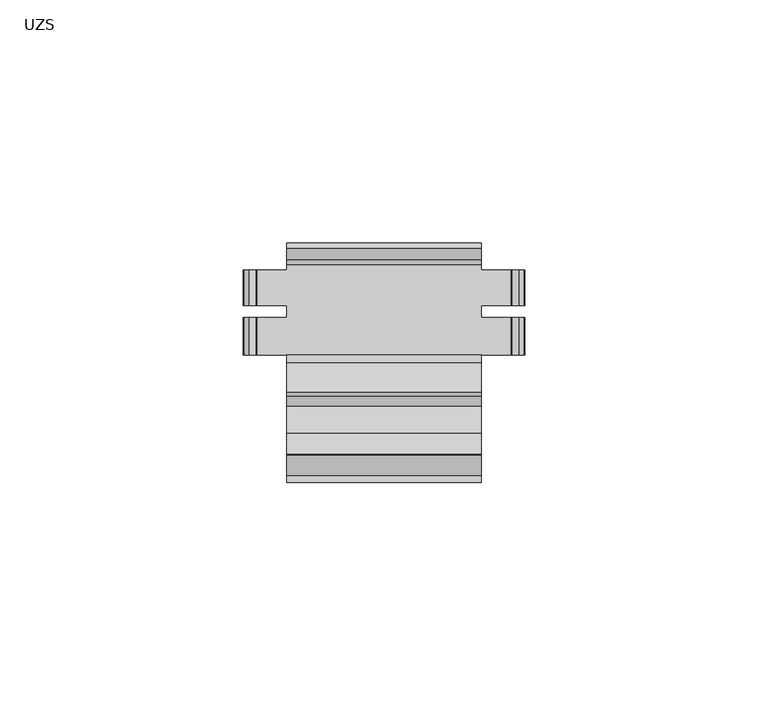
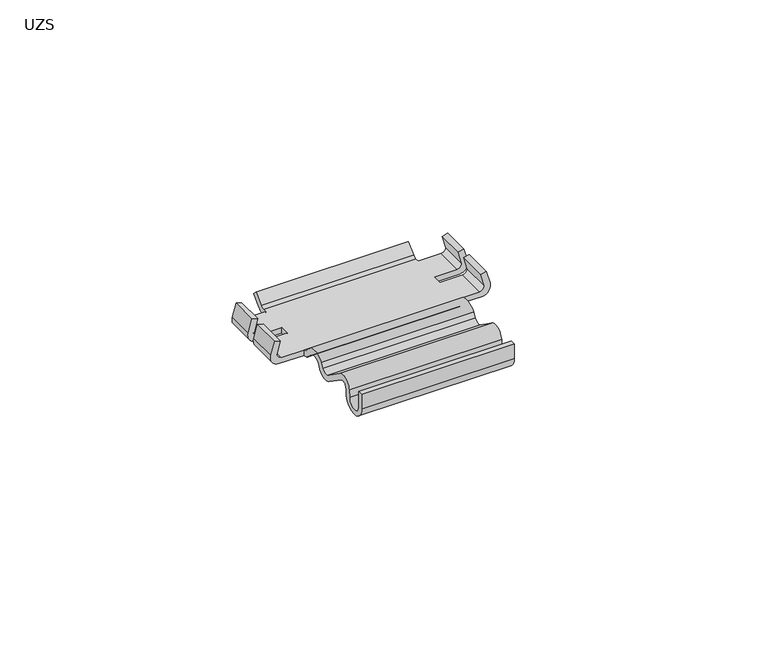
"""IFC4 building model written with IfcOpenShell, lengths in millimetres: cable carrier fitting geometry, BAKS_SUB_Mesh connector bottom : UZS."""

from ifc_helpers import new_model, si_unit, frame, origin, place, context, project, spatial, polyline, circle_curve, source, transform, mapped, element, save
from ifc_brep_helpers import plane_surface, cylinder_surface, revolved_surface, advanced_brep


def uzs_ee93b948(model_context):
    return source(origin(), model_context, "Body", "AdvancedBrep", [
        advanced_brep(
        [(20.0, -26.1903688, -0.5), (20.0, -18.9903688, -0.5), (20.0, -18.9903688, 0.7084026), (20.0, -16.6986716, 1.7770386), (20.0, -11.3752799, -1.9504404), (20.0, -6.8125457, -0.5554726), (20.0, -3.0397387, 0.455448), (20.0, -1.5, -1.0842907), (20.0, 0.0514483, -1.5), (20.0, 0.0, 0.0), (20.0, -1.5771864, 1.1043578), (20.0, -7.7007133, 1.1043578), (20.0, -8.4739929, 0.0), (20.0, -10.5114403, -0.7415702), (20.0, -16.1190086, 3.1848914), (20.0, -20.3947418, 1.1910843), (20.0, -20.5659478, -0.7658087), (20.0, -24.7838373, -0.7658087), (20.0, -24.7838373, 3.5), (20.0, -26.1903688, 3.5), (20.0, 18.5, 0.0), (20.0, 17.5, 0.0), (20.0, 17.5, -1.5), (20.0, 18.5, -1.5), (20.0, 20.6591422, -0.5834985), (20.0, 22.9856414, 1.7430007), (20.0, 21.9249812, 2.8036608), (20.0, 19.5606602, 0.4393398), (20.0, 10.25, 0.0), (20.0, 7.75, 0.0), (20.0, 7.75, -1.5), (20.0, 10.25, -1.5), (-20.0, -26.1903688, -0.5), (-20.0, -26.1903688, 3.5), (-20.0, -24.7838373, 3.5), (-20.0, -24.7838373, -0.7658087), (-20.0, -20.5659478, -0.7658087), (-20.0, -20.3947418, 1.1910843), (-20.0, -16.1190086, 3.1848914), (-20.0, -10.5114403, -0.7415702), (-20.0, -8.4739929, 0.0), (-20.0, -7.7007133, 1.1043578), (-20.0, -1.5771864, 1.1043578), (-20.0, 0.0, 0.0), (-20.0, 0.0, -1.512879), (-20.0, -1.5, -1.0842907), (-20.0, -3.0397387, 0.455448), (-20.0, -6.8125457, -0.5554726), (-20.0, -11.3752799, -1.9504404), (-20.0, -16.6986716, 1.7770386), (-20.0, -18.9903688, 0.7084026), (-20.0, -18.9903688, -0.5), (-20.0, 18.5, -1.5), (-20.0, 17.5, -1.5), (-20.0, 17.5, 0.0), (-20.0, 18.5, 0.0), (-20.0, 19.5606602, 0.4393398), (-20.0, 21.9249812, 2.8036608), (-20.0, 22.9856414, 1.7430007), (-20.0, 20.6591422, -0.5834985), (-20.0, 7.75, 0.0), (-20.0, 10.25, 0.0), (-20.0, 10.25, -1.5), (-20.0, 7.75, -1.5), (25.9820894, 0.0, 0.0), (25.9820894, 7.75, 0.0), (25.9820894, 10.25, 0.0), (25.9820894, 17.5, 0.0), (-25.9820894, 17.5, 0.0), (-25.9820894, 10.25, 0.0), (-25.9820894, 7.75, 0.0), (-25.9820894, 0.0, 0.0), (26.7264706, 17.5, -1.5), (26.7264706, 10.25, -1.5), (26.7264706, 7.75, -1.5), (26.7264706, 0.0, -1.5), (-26.7264706, 0.0, -1.5), (-26.7264706, 7.75, -1.5), (-26.7264706, 10.25, -1.5), (-26.7264706, 17.5, -1.5), (27.2287691, 17.5, 1.2466797), (26.3155563, 17.5, 4.654836), (27.8072475, 17.5, 5.0545335), (28.7783388, 17.5, 1.4303715), (28.7783388, 10.25, 1.4303715), (27.8072475, 10.25, 5.0545335), (26.3155563, 10.25, 4.654836), (27.2287691, 10.25, 1.2466797), (27.2287691, 7.75, 1.2466797), (26.3155563, 7.75, 4.654836), (27.8072475, 7.75, 5.0545335), (28.7783388, 7.75, 1.4303715), (28.7783388, 0.0, 1.4303715), (27.8072475, 0.0, 5.0545335), (26.3155563, 0.0, 4.654836), (27.2287691, 0.0, 1.2466797), (-28.7783388, 7.75, 1.4303715), (-27.8072475, 7.75, 5.0545335), (-26.3155563, 7.75, 4.654836), (-27.2287691, 7.75, 1.2466797), (-27.2287691, 0.0, 1.2466797), (-26.3155563, 0.0, 4.654836), (-27.8072475, 0.0, 5.0545335), (-28.7783388, 0.0, 1.4303715), (-28.7783388, 17.5, 1.4303715), (-27.8072475, 17.5, 5.0545335), (-26.3155563, 17.5, 4.654836), (-27.2287691, 17.5, 1.2466797), (-27.2287691, 10.25, 1.2466797), (-26.3155563, 10.25, 4.654836), (-27.8072475, 10.25, 5.0545335), (-28.7783388, 10.25, 1.4303715)],
        [
            (0, 1, circle_curve(frame((20.0, -22.5903688, -0.5), z_axis=(1.0, 0.0, 0.0), x_axis=(0.0, 1.0, 0.0)), 3.6)),
            (1, 2),
            (2, 3, circle_curve(frame((20.0, -17.5953636, 0.7084026), z_axis=(-1.0, 0.0, 0.0), x_axis=(0.0, 1.0, 0.0)), 1.3950052)),
            (3, 4),
            (4, 5, circle_curve(frame((20.0, -9.6388469, 0.5294428), z_axis=(1.0, 0.0, 0.0), x_axis=(0.0, 1.0, 0.0)), 3.0273784)),
            (5, 6, circle_curve(frame((20.0, -4.5589038, -1.4205647), z_axis=(-1.0, 0.0, 0.0), x_axis=(0.0, 1.0, 0.0)), 2.4139773)),
            (6, 7),
            (7, 8, circle_curve(frame((20.0, -0.364261, 0.0514483), z_axis=(1.0, 0.0, 0.0), x_axis=(0.0, 1.0, 0.0)), 1.6061775)),
            (8, 9),
            (9, 10, circle_curve(frame((20.0, 0.0, 1.6784067), z_axis=(-1.0, 0.0, 0.0), x_axis=(0.0, 1.0, 0.0)), 1.6784067)),
            (10, 11, circle_curve(frame((20.0, -4.6389498, -1.0752798), z_axis=(1.0, 0.0, 0.0), x_axis=(0.0, 1.0, 0.0)), 3.7583528)),
            (11, 12),
            (12, 13, circle_curve(frame((20.0, -10.0222526, 1.0841031), z_axis=(-1.0, 0.0, 0.0), x_axis=(0.0, 1.0, 0.0)), 1.8900761)),
            (13, 14),
            (14, 15, circle_curve(frame((20.0, -17.6813127, 0.95369), z_axis=(1.0, 0.0, 0.0), x_axis=(0.0, 1.0, 0.0)), 2.723794)),
            (15, 16),
            (16, 17, circle_curve(frame((20.0, -22.6748926, -0.7658087), z_axis=(-1.0, 0.0, 0.0), x_axis=(0.0, 1.0, 0.0)), 2.1089448)),
            (17, 18),
            (18, 19),
            (19, 0),
            (20, 21),
            (21, 22),
            (22, 23),
            (23, 24, circle_curve(frame((20.0, 18.5, 1.5015608), z_axis=(1.0, 0.0, 0.0), x_axis=(0.0, 1.0, 0.0)), 3.0015608)),
            (24, 25),
            (25, 26),
            (26, 27),
            (27, 20, circle_curve(frame((20.0, 18.5, 1.5), z_axis=(-1.0, 0.0, 0.0), x_axis=(0.0, 1.0, 0.0)), 1.5)),
            (28, 29),
            (29, 30),
            (30, 31),
            (31, 28),
            (32, 33),
            (33, 34),
            (34, 35),
            (35, 36, circle_curve(frame((-20.0, -22.6748926, -0.7658087), z_axis=(1.0, 0.0, 0.0), x_axis=(0.0, 1.0, 0.0)), 2.1089448)),
            (36, 37),
            (37, 38, circle_curve(frame((-20.0, -17.6813127, 0.95369), z_axis=(-1.0, 0.0, 0.0), x_axis=(0.0, 1.0, 0.0)), 2.723794)),
            (38, 39),
            (39, 40, circle_curve(frame((-20.0, -10.0222526, 1.0841031), z_axis=(1.0, 0.0, 0.0), x_axis=(0.0, 1.0, 0.0)), 1.8900761)),
            (40, 41),
            (41, 42, circle_curve(frame((-20.0, -4.6389498, -1.0752798), z_axis=(-1.0, 0.0, 0.0), x_axis=(0.0, 1.0, 0.0)), 3.7583528)),
            (42, 43, circle_curve(frame((-20.0, 0.0, 1.6784067), z_axis=(1.0, 0.0, 0.0), x_axis=(0.0, 1.0, 0.0)), 1.6784067)),
            (43, 44),
            (44, 45, circle_curve(frame((-20.0, -0.364261, 0.0514483), z_axis=(-1.0, 0.0, 0.0), x_axis=(0.0, 1.0, 0.0)), 1.6061775)),
            (45, 46),
            (46, 47, circle_curve(frame((-20.0, -4.5589038, -1.4205647), z_axis=(1.0, 0.0, 0.0), x_axis=(0.0, 1.0, 0.0)), 2.4139773)),
            (47, 48, circle_curve(frame((-20.0, -9.6388469, 0.5294428), z_axis=(-1.0, 0.0, 0.0), x_axis=(0.0, 1.0, 0.0)), 3.0273784)),
            (48, 49),
            (49, 50, circle_curve(frame((-20.0, -17.5953636, 0.7084026), z_axis=(1.0, 0.0, 0.0), x_axis=(0.0, 1.0, 0.0)), 1.3950052)),
            (50, 51),
            (51, 32, circle_curve(frame((-20.0, -22.5903688, -0.5), z_axis=(-1.0, 0.0, 0.0), x_axis=(0.0, 1.0, 0.0)), 3.6)),
            (52, 53),
            (53, 54),
            (54, 55),
            (55, 56, circle_curve(frame((-20.0, 18.5, 1.5), z_axis=(1.0, 0.0, 0.0), x_axis=(0.0, 1.0, 0.0)), 1.5)),
            (56, 57),
            (57, 58),
            (58, 59),
            (59, 52, circle_curve(frame((-20.0, 18.5, 1.5015608), z_axis=(-1.0, 0.0, 0.0), x_axis=(0.0, 1.0, 0.0)), 3.0015608)),
            (60, 61),
            (61, 62),
            (62, 63),
            (63, 60),
            (19, 33),
            (32, 0),
            (18, 34),
            (17, 35),
            (16, 36),
            (15, 37),
            (14, 38),
            (13, 39),
            (12, 40),
            (11, 41),
            (10, 42),
            (9, 43),
            (9, 64),
            (64, 65),
            (65, 29),
            (28, 66),
            (66, 67),
            (67, 21),
            (20, 55),
            (54, 68),
            (68, 69),
            (69, 61),
            (60, 70),
            (70, 71),
            (71, 43),
            (27, 56),
            (26, 57),
            (25, 58),
            (24, 59),
            (23, 52),
            (22, 72),
            (72, 73),
            (73, 31),
            (30, 74),
            (74, 75),
            (75, 8),
            (8, 44),
            (44, 76),
            (76, 77),
            (77, 63),
            (62, 78),
            (78, 79),
            (79, 53),
            (7, 45),
            (6, 46),
            (5, 47),
            (4, 48),
            (3, 49),
            (2, 50),
            (1, 51),
            (67, 80, circle_curve(frame((25.9820894, 17.5, 1.2466797), z_axis=(0.0, -1.0, 0.0), x_axis=(1.0, 0.0, 0.0)), 1.2466797)),
            (80, 81),
            (81, 82),
            (82, 83),
            (83, 72, circle_curve(frame((26.5229679, 17.5, 0.8260467), z_axis=(0.0, 1.0, 0.0), x_axis=(1.0, 0.0, 0.0)), 2.3349318)),
            (73, 84, circle_curve(frame((26.5229679, 10.25, 0.8260467), z_axis=(0.0, -1.0, 0.0), x_axis=(1.0, 0.0, 0.0)), 2.3349318)),
            (84, 85),
            (85, 86),
            (86, 87),
            (87, 66, circle_curve(frame((25.9820894, 10.25, 1.2466797), z_axis=(0.0, 1.0, 0.0), x_axis=(1.0, 0.0, 0.0)), 1.2466797)),
            (83, 84),
            (82, 85),
            (81, 86),
            (80, 87),
            (65, 88, circle_curve(frame((25.9820894, 7.75, 1.2466797), z_axis=(0.0, -1.0, 0.0), x_axis=(1.0, 0.0, 0.0)), 1.2466797)),
            (88, 89),
            (89, 90),
            (90, 91),
            (91, 74, circle_curve(frame((26.5229679, 7.75, 0.8260467), z_axis=(0.0, 1.0, 0.0), x_axis=(1.0, 0.0, 0.0)), 2.3349318)),
            (75, 92, circle_curve(frame((26.5229679, 0.0, 0.8260467), z_axis=(0.0, -1.0, 0.0), x_axis=(1.0, 0.0, 0.0)), 2.3349318)),
            (92, 93),
            (93, 94),
            (94, 95),
            (95, 64, circle_curve(frame((25.9820894, 0.0, 1.2466797), z_axis=(0.0, 1.0, 0.0), x_axis=(1.0, 0.0, 0.0)), 1.2466797)),
            (91, 92),
            (90, 93),
            (89, 94),
            (88, 95),
            (77, 96, circle_curve(frame((-26.5229679, 7.75, 0.8260467), z_axis=(0.0, 1.0, 0.0), x_axis=(-1.0, 0.0, 0.0)), 2.3349318)),
            (96, 97),
            (97, 98),
            (98, 99),
            (99, 70, circle_curve(frame((-25.9820894, 7.75, 1.2466797), z_axis=(0.0, -1.0, 0.0), x_axis=(-1.0, 0.0, 0.0)), 1.2466797)),
            (71, 100, circle_curve(frame((-25.9820894, 0.0, 1.2466797), z_axis=(0.0, 1.0, 0.0), x_axis=(-1.0, 0.0, 0.0)), 1.2466797)),
            (100, 101),
            (101, 102),
            (102, 103),
            (103, 76, circle_curve(frame((-26.5229679, 0.0, 0.8260467), z_axis=(0.0, -1.0, 0.0), x_axis=(-1.0, 0.0, 0.0)), 2.3349318)),
            (103, 96),
            (102, 97),
            (101, 98),
            (100, 99),
            (79, 104, circle_curve(frame((-26.5229679, 17.5, 0.8260467), z_axis=(0.0, 1.0, 0.0), x_axis=(-1.0, 0.0, 0.0)), 2.3349318)),
            (104, 105),
            (105, 106),
            (106, 107),
            (107, 68, circle_curve(frame((-25.9820894, 17.5, 1.2466797), z_axis=(0.0, -1.0, 0.0), x_axis=(-1.0, 0.0, 0.0)), 1.2466797)),
            (69, 108, circle_curve(frame((-25.9820894, 10.25, 1.2466797), z_axis=(0.0, 1.0, 0.0), x_axis=(-1.0, 0.0, 0.0)), 1.2466797)),
            (108, 109),
            (109, 110),
            (110, 111),
            (111, 78, circle_curve(frame((-26.5229679, 10.25, 0.8260467), z_axis=(0.0, -1.0, 0.0), x_axis=(-1.0, 0.0, 0.0)), 2.3349318)),
            (111, 104),
            (110, 105),
            (109, 106),
            (108, 107),
        ],
        [
            plane_surface(frame((20.0, -26.1903688, 3.5), z_axis=(1.0, 0.0, 0.0), x_axis=(0.0, 0.0, 1.0))),
            plane_surface(frame((-20.0, -26.1903688, 3.5), z_axis=(-1.0, 0.0, 0.0), x_axis=(0.0, 0.0, -1.0))),
            plane_surface(frame((20.0, -26.1903688, -0.5), z_axis=(0.0, -1.0, 0.0), x_axis=(-1.0, 0.0, 0.0))),
            plane_surface(frame((20.0, -26.1903688, 3.5), z_axis=(0.0, 0.0, 1.0), x_axis=(-1.0, 0.0, 0.0))),
            plane_surface(frame((20.0, -24.7838373, 3.5), z_axis=(0.0, 1.0, 0.0), x_axis=(-1.0, 0.0, 0.0))),
            revolved_surface(polyline([(-20.0, -20.5659478, -0.7658087), (20.0, -20.5659478, -0.7658087)]), (-20.0, -22.6748926, -0.7658087), (-1.0, 0.0, 0.0)),
            plane_surface(frame((20.0, -20.5659478, -0.7658087), z_axis=(0.0, -0.9961946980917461, 0.08715574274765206), x_axis=(-1.0, 0.0, 0.0))),
            cylinder_surface(frame((-20.0, -17.6813127, 0.95369), z_axis=(1.0, 0.0, 0.0), x_axis=(0.0, 1.0, 0.0)), 2.723794),
            plane_surface(frame((20.0, -16.1190086, 3.1848914), z_axis=(0.0, 0.5735764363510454, 0.8191520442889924), x_axis=(-1.0, 0.0, 0.0))),
            revolved_surface(polyline([(-20.0, -8.1321765, 1.0841031), (20.0, -8.1321765, 1.0841031)]), (-20.0, -10.0222526, 1.0841031), (-1.0, 0.0, 0.0)),
            plane_surface(frame((20.0, -8.4739929, 0.0), z_axis=(0.0, -0.8191520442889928, 0.5735764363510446), x_axis=(-1.0, 0.0, 0.0))),
            cylinder_surface(frame((-20.0, -4.6389498, -1.0752798), z_axis=(1.0, 0.0, 0.0), x_axis=(0.0, 1.0, 0.0)), 3.7583528),
            revolved_surface(polyline([(-20.0, 1.6784067, 1.6784067), (20.0, 1.6784067, 1.6784067)]), (-20.0, 0.0, 1.6784067), (-1.0, 0.0, 0.0)),
            plane_surface(frame((20.0, 0.0, 0.0), z_axis=(0.0, 0.0, 1.0), x_axis=(-1.0, 0.0, 0.0))),
            revolved_surface(polyline([(-20.0, 20.0, 1.5), (20.0, 20.0, 1.5)]), (-20.0, 18.5, 1.5), (-1.0, 0.0, 0.0)),
            plane_surface(frame((20.0, 19.5606602, 0.4393398), z_axis=(0.0, -0.7071067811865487, 0.7071067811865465), x_axis=(-1.0, 0.0, 0.0))),
            plane_surface(frame((20.0, 21.9249812, 2.8036608), z_axis=(0.0, 0.7071067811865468, 0.7071067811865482), x_axis=(-1.0, 0.0, 0.0))),
            plane_surface(frame((20.0, 22.9856414, 1.7430007), z_axis=(0.0, 0.707106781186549, -0.707106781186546), x_axis=(-1.0, 0.0, 0.0))),
            cylinder_surface(frame((-20.0, 18.5, 1.5015608), z_axis=(1.0, 0.0, 0.0), x_axis=(0.0, 1.0, 0.0)), 3.0015608),
            plane_surface(frame((20.0, 18.5, -1.5), z_axis=(0.0, 0.0, -1.0), x_axis=(-1.0, 0.0, 0.0))),
            cylinder_surface(frame((-20.0, -0.364261, 0.0514483), z_axis=(1.0, 0.0, 0.0), x_axis=(0.0, 1.0, 0.0)), 1.6061775),
            plane_surface(frame((20.0, -1.5, -1.0842907), z_axis=(0.0, -0.7071067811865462, -0.7071067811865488), x_axis=(-1.0, 0.0, 0.0))),
            revolved_surface(polyline([(-20.0, -2.1449265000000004, -1.4205647), (20.0, -2.1449265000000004, -1.4205647)]), (-20.0, -4.5589038, -1.4205647), (-1.0, 0.0, 0.0)),
            cylinder_surface(frame((-20.0, -9.6388469, 0.5294428), z_axis=(1.0, 0.0, 0.0), x_axis=(0.0, 1.0, 0.0)), 3.0273784),
            plane_surface(frame((20.0, -11.3752799, -1.9504404), z_axis=(0.0, -0.5735764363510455, -0.8191520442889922), x_axis=(-1.0, 0.0, 0.0))),
            revolved_surface(polyline([(-20.0, -16.2003584, 0.7084026), (20.0, -16.2003584, 0.7084026)]), (-20.0, -17.5953636, 0.7084026), (-1.0, 0.0, 0.0)),
            plane_surface(frame((20.0, -18.9903688, 0.7084026), z_axis=(0.0, 1.0, 0.0), x_axis=(-1.0, 0.0, 0.0))),
            cylinder_surface(frame((-20.0, -22.5903688, -0.5), z_axis=(1.0, 0.0, 0.0), x_axis=(0.0, 1.0, 0.0)), 3.6),
            plane_surface(frame((28.8578997, 17.5, 0.8260467), z_axis=(0.0, 1.0, 0.0), x_axis=(0.0, 0.0, 1.0))),
            plane_surface(frame((28.8578997, 10.25, 0.8260467), z_axis=(0.0, -1.0, 0.0), x_axis=(0.0, 0.0, -1.0))),
            cylinder_surface(frame((26.5229679, 10.25, 0.8260467), z_axis=(0.0, 1.0, 0.0), x_axis=(1.0, 0.0, 0.0)), 2.3349318),
            plane_surface(frame((28.7783388, 17.5, 1.4303715), z_axis=(0.9659258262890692, 0.0, 0.25881904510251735), x_axis=(0.0, -1.0, 0.0))),
            plane_surface(frame((27.8072475, 17.5, 5.0545335), z_axis=(-0.25881904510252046, 0.0, 0.9659258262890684), x_axis=(0.0, -1.0, 0.0))),
            plane_surface(frame((26.3155563, 17.5, 4.654836), z_axis=(-0.9659258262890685, 0.0, -0.2588190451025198), x_axis=(0.0, -1.0, 0.0))),
            revolved_surface(polyline([(27.2287691, 10.25, 1.2466797), (27.2287691, 17.5, 1.2466797)]), (25.9820894, 10.25, 1.2466797), (0.0, -1.0, 0.0)),
            plane_surface(frame((28.8578997, 7.75, 0.8260467), z_axis=(0.0, 1.0, 0.0), x_axis=(0.0, 0.0, 1.0))),
            plane_surface(frame((28.8578997, 0.0, 0.8260467), z_axis=(0.0, -1.0, 0.0), x_axis=(0.0, 0.0, -1.0))),
            cylinder_surface(frame((26.5229679, 0.0, 0.8260467), z_axis=(0.0, 1.0, 0.0), x_axis=(1.0, 0.0, 0.0)), 2.3349318),
            plane_surface(frame((28.7783388, 7.75, 1.4303715), z_axis=(0.9659258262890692, 0.0, 0.25881904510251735), x_axis=(0.0, -1.0, 0.0))),
            plane_surface(frame((27.8072475, 7.75, 5.0545335), z_axis=(-0.25881904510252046, 0.0, 0.9659258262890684), x_axis=(0.0, -1.0, 0.0))),
            plane_surface(frame((26.3155563, 7.75, 4.654836), z_axis=(-0.9659258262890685, 0.0, -0.2588190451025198), x_axis=(0.0, -1.0, 0.0))),
            revolved_surface(polyline([(27.2287691, 0.0, 1.2466797), (27.2287691, 7.75, 1.2466797)]), (25.9820894, 0.0, 1.2466797), (0.0, -1.0, 0.0)),
            plane_surface(frame((-20.0, 7.75, -1.5), z_axis=(0.0, 1.0, 0.0), x_axis=(1.0, 0.0, 0.0))),
            plane_surface(frame((-20.0, 0.0, -1.5), z_axis=(0.0, -1.0, 0.0), x_axis=(-1.0, 0.0, 0.0))),
            cylinder_surface(frame((-26.5229679, 0.0, 0.8260467), z_axis=(0.0, 1.0, 0.0), x_axis=(-1.0, 0.0, 0.0)), 2.3349318),
            plane_surface(frame((-27.8072475, 7.75, 5.0545335), z_axis=(-0.9659258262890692, 0.0, 0.25881904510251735), x_axis=(0.0, -1.0, 0.0))),
            plane_surface(frame((-26.3155563, 7.75, 4.654836), z_axis=(0.25881904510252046, 0.0, 0.9659258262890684), x_axis=(0.0, -1.0, 0.0))),
            plane_surface(frame((-27.2287691, 7.75, 1.2466797), z_axis=(0.9659258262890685, 0.0, -0.2588190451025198), x_axis=(0.0, -1.0, 0.0))),
            revolved_surface(polyline([(-27.2287691, 0.0, 1.2466797), (-27.2287691, 7.75, 1.2466797)]), (-25.9820894, 0.0, 1.2466797), (0.0, -1.0, 0.0)),
            plane_surface(frame((-20.0, 17.5, -1.5), z_axis=(0.0, 1.0, 0.0), x_axis=(1.0, 0.0, 0.0))),
            plane_surface(frame((-20.0, 10.25, -1.5), z_axis=(0.0, -1.0, 0.0), x_axis=(-1.0, 0.0, 0.0))),
            cylinder_surface(frame((-26.5229679, 10.25, 0.8260467), z_axis=(0.0, 1.0, 0.0), x_axis=(-1.0, 0.0, 0.0)), 2.3349318),
            plane_surface(frame((-27.8072475, 17.5, 5.0545335), z_axis=(-0.9659258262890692, 0.0, 0.25881904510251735), x_axis=(0.0, -1.0, 0.0))),
            plane_surface(frame((-26.3155563, 17.5, 4.654836), z_axis=(0.25881904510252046, 0.0, 0.9659258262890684), x_axis=(0.0, -1.0, 0.0))),
            plane_surface(frame((-27.2287691, 17.5, 1.2466797), z_axis=(0.9659258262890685, 0.0, -0.2588190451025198), x_axis=(0.0, -1.0, 0.0))),
            revolved_surface(polyline([(-27.2287691, 10.25, 1.2466797), (-27.2287691, 17.5, 1.2466797)]), (-25.9820894, 10.25, 1.2466797), (0.0, -1.0, 0.0)),
        ],
        [
            (0, [[1, 2, 3, 4, 5, 6, 7, 8, 9, 10, 11, 12, 13, 14, 15, 16, 17, 18, 19, 20]]),
            (0, [[21, 22, 23, 24, 25, 26, 27, 28]]),
            (0, [[29, 30, 31, 32]]),
            (1, [[33, 34, 35, 36, 37, 38, 39, 40, 41, 42, 43, 44, 45, 46, 47, 48, 49, 50, 51, 52]]),
            (1, [[53, 54, 55, 56, 57, 58, 59, 60]]),
            (1, [[61, 62, 63, 64]]),
            (2, [[65, -33, 66, -20]]),
            (3, [[67, -34, -65, -19]]),
            (4, [[68, -35, -67, -18]]),
            (5, [[69, -36, -68, -17]]),
            (6, [[70, -37, -69, -16]]),
            (7, [[71, -38, -70, -15]]),
            (8, [[72, -39, -71, -14]]),
            (9, [[73, -40, -72, -13]]),
            (10, [[74, -41, -73, -12]]),
            (11, [[75, -42, -74, -11]]),
            (12, [[76, -43, -75, -10]]),
            (13, [[77, 78, 79, -29, 80, 81, 82, -21, 83, -55, 84, 85, 86, -61, 87, 88, 89, -76]]),
            (14, [[90, -56, -83, -28]]),
            (15, [[91, -57, -90, -27]]),
            (16, [[92, -58, -91, -26]]),
            (17, [[93, -59, -92, -25]]),
            (18, [[94, -60, -93, -24]]),
            (19, [[-23, 95, 96, 97, -31, 98, 99, 100, 101, 102, 103, 104, -63, 105, 106, 107, -53, -94]]),
            (20, [[108, -45, -101, -8]]),
            (21, [[109, -46, -108, -7]]),
            (22, [[110, -47, -109, -6]]),
            (23, [[111, -48, -110, -5]]),
            (24, [[112, -49, -111, -4]]),
            (25, [[113, -50, -112, -3]]),
            (26, [[114, -51, -113, -2]]),
            (27, [[-66, -52, -114, -1]]),
            (28, [[-95, -22, -82, 115, 116, 117, 118, 119]]),
            (29, [[120, 121, 122, 123, 124, -80, -32, -97]]),
            (30, [[125, -120, -96, -119]]),
            (31, [[126, -121, -125, -118]]),
            (32, [[127, -122, -126, -117]]),
            (33, [[128, -123, -127, -116]]),
            (34, [[-81, -124, -128, -115]]),
            (35, [[-98, -30, -79, 129, 130, 131, 132, 133]]),
            (36, [[134, 135, 136, 137, 138, -77, -9, -100]]),
            (37, [[139, -134, -99, -133]]),
            (38, [[140, -135, -139, -132]]),
            (39, [[141, -136, -140, -131]]),
            (40, [[142, -137, -141, -130]]),
            (41, [[-78, -138, -142, -129]]),
            (42, [[143, 144, 145, 146, 147, -87, -64, -104]]),
            (43, [[-102, -44, -89, 148, 149, 150, 151, 152]]),
            (44, [[-103, -152, 153, -143]]),
            (45, [[-153, -151, 154, -144]]),
            (46, [[-154, -150, 155, -145]]),
            (47, [[-155, -149, 156, -146]]),
            (48, [[-156, -148, -88, -147]]),
            (49, [[157, 158, 159, 160, 161, -84, -54, -107]]),
            (50, [[-105, -62, -86, 162, 163, 164, 165, 166]]),
            (51, [[-106, -166, 167, -157]]),
            (52, [[-167, -165, 168, -158]]),
            (53, [[-168, -164, 169, -159]]),
            (54, [[-169, -163, 170, -160]]),
            (55, [[-170, -162, -85, -161]]),
        ],
    ),
    ])


if __name__ == "__main__":
    model = new_model("IFC4")
    model_context = context("Model", 3, world=origin())
    ifc_project = project(units=[si_unit("LENGTHUNIT", "METRE", prefix="MILLI")], contexts=[model_context])
    site = spatial("IfcSite", under=ifc_project)
    building = spatial("IfcBuilding", under=site)
    placement = place(None, origin())
    uzs_shape = uzs_ee93b948(model_context)
    element("IfcCableCarrierFitting", 1, ObjectType="BAKS_SUB_Mesh connector bottom : UZS", at=placement, inside=building, context=model_context, shape_type="MappedRepresentation", body=[
        mapped(uzs_shape, transform((0.0, 0.0, 0.0), x_axis=(1.0, 0.0, 0.0), y_axis=(0.0, 1.0, 0.0), z_axis=(0.0, 0.0, 1.0))),
    ])
    save(model, "model.ifc")
